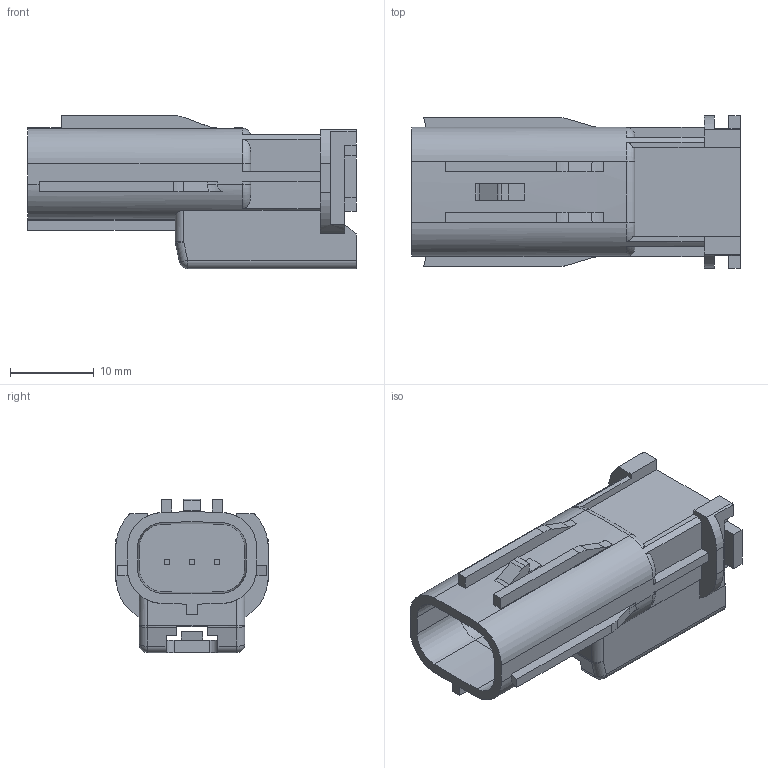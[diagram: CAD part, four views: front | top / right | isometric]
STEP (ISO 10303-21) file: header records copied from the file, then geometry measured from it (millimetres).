
FILE_DESCRIPTION(('CATIA V5 STEP Exchange'),'2;1');
FILE_NAME('N:\C-DAM_MyDesk\ENV\900093\6188-4920.stp','2013-07-18T05:22:58+00:00',('none'),('none'),'CATIA Version 5 Release 20 SP 4 (IN-10)','CATIA V5 STEP AP203','none');
FILE_SCHEMA(('CONFIG_CONTROL_DESIGN'));
Length unit declared in the file: millimetre
Products named in the file (1): 6188-4920
Bounding box: 39.2 x 18.2 x 18.3 mm (x, y, z)
Volume: 5268.2 mm3; surface area: 3969.8 mm2
Topology: 1 solids, 1 shells, 213 faces, 585 edges, 378 vertices
Faces by surface type: plane 145, cylinder 46, torus 7, cone 6, bspline 5, sphere 4
Entity records: 6694 total; most frequent: CARTESIAN_POINT 1557, ORIENTED_EDGE 1162, DIRECTION 861, EDGE_CURVE 581, VECTOR 424, LINE 424, VERTEX_POINT 378, AXIS2_PLACEMENT_3D 283
